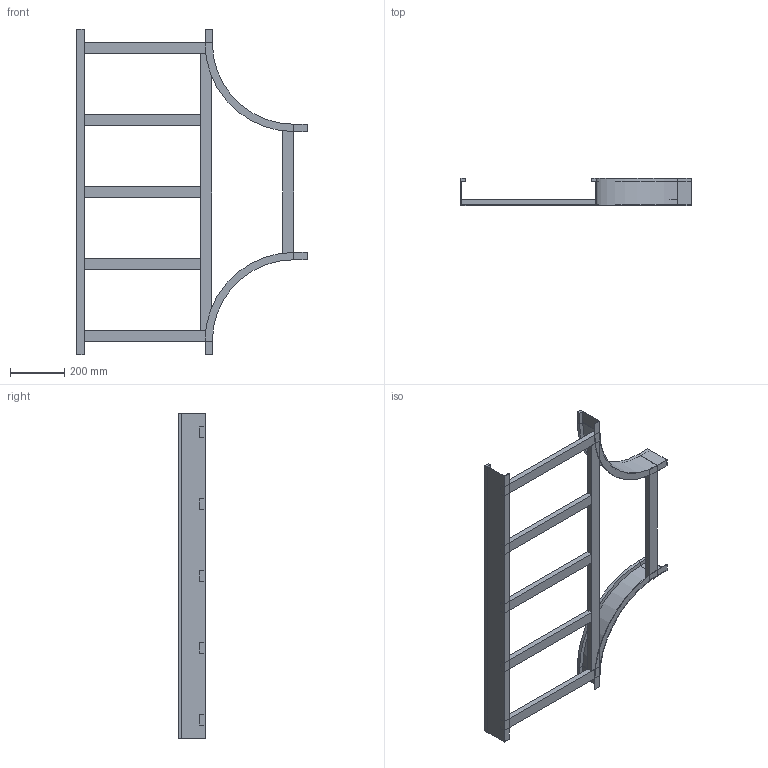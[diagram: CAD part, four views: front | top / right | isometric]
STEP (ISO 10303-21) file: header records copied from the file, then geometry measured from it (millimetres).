
FILE_DESCRIPTION (( 'STEP AP214' ), '1' );
FILE_NAME ('B2_15B3D500.step', '2025-02-21T15:50:15', ( '' ), ( '' ), 'SwSTEP 2.0', 'SolidWorks 2023', '' );
FILE_SCHEMA (( 'AUTOMOTIVE_DESIGN' ));
Length unit declared in the file: millimetre
Products named in the file (6): B2_TRAVERSINO_LONG._R300+500; TRAVERSINO_500; B2_LONGH.RETT_H100_R300+500; B2_LONGH.INTERNO 90°_H100_R300; TRAVERSINO_INTERMEDIO_R300+500; B2_15B3D500
Assembly tree (10 placements, depth 2):
  B2_15B3D500
    B2_LONGH.INTERNO 90°_H100_R300  x2
    B2_LONGH.RETT_H100_R300+500
    TRAVERSINO_500  x3
    B2_TRAVERSINO_LONG._R300+500
    TRAVERSINO_INTERMEDIO_R300+500  x3
Bounding box: 850 x 100 x 1200 mm (x, y, z)
Volume: 4181848 mm3; surface area: 1157318.3 mm2
Topology: 10 solids, 10 shells, 104 faces, 220 edges, 136 vertices
Faces by surface type: plane 96, cylinder 8
Entity records: 1647 total; most frequent: DIRECTION 258, CARTESIAN_POINT 255, ORIENTED_EDGE 232, EDGE_CURVE 116, VECTOR 108, LINE 108, AXIS2_PLACEMENT_3D 75, VERTEX_POINT 72
